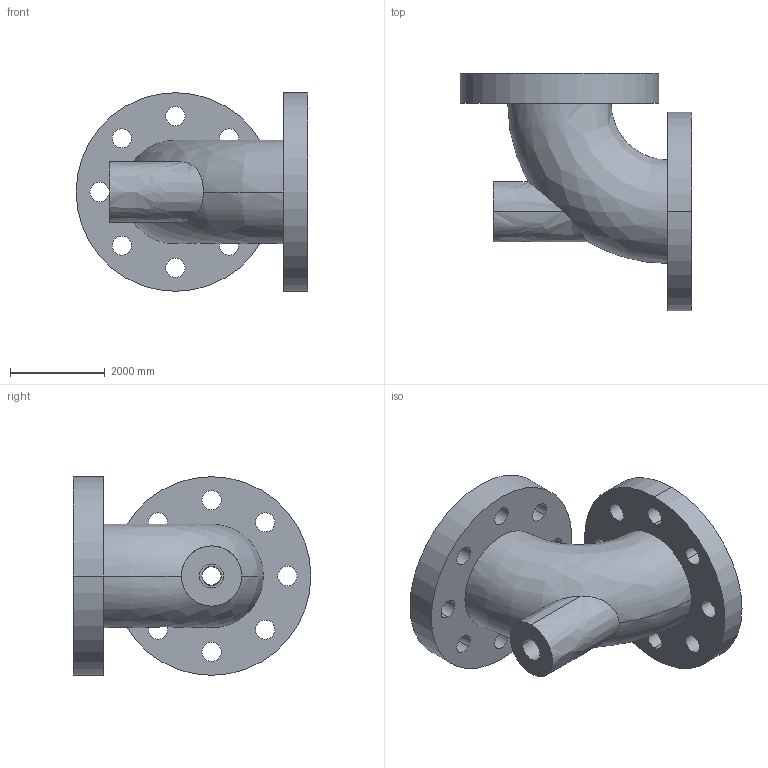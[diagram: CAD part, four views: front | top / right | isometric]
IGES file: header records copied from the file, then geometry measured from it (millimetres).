
Start section:  PTC IGES file: tip.igs
Global section: file name: tip.igs; native system: Pro/ENGINEER by Parametric Technology Corporation; preprocessor: 2006010; author: Administrator; organization: Unknown; date: 20070301.181537; units: inch
Bounding box: 4889.5 x 5016.5 x 4191 mm (x, y, z)
Volume: 22416431864.6 mm3; surface area: 119559687.1 mm2
Topology: 1 solids, 1 shells, 56 faces, 154 edges, 102 vertices
Faces by surface type: revolution 50, bspline 6
